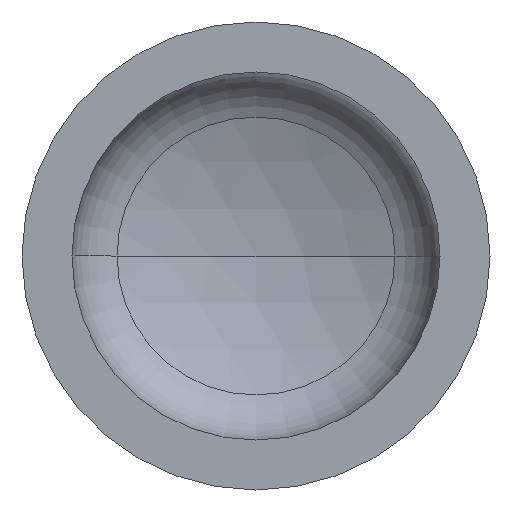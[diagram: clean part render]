
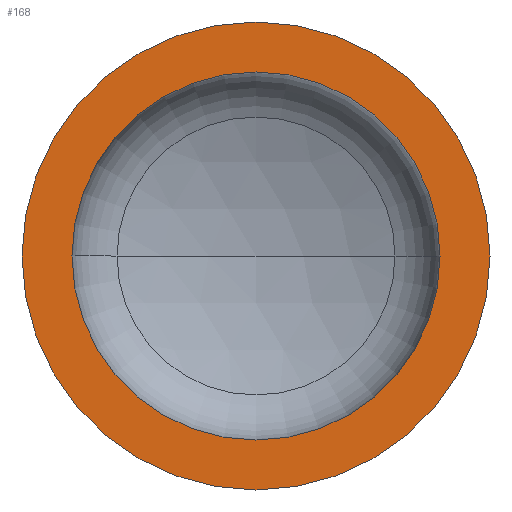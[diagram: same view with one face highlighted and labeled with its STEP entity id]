
A CAD part, front view. The second image highlights one B-rep face of the part: STEP entity #168.
In plain terms, the highlighted planar face has unit normal (0, -1, 0).
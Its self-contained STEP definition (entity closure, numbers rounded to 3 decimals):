
#13 = VERTEX_POINT ( 'NONE', #282 ) ;
#23 = AXIS2_PLACEMENT_3D ( 'NONE', #98, #138, #133 ) ;
#24 = FACE_OUTER_BOUND ( 'NONE', #140, .T. ) ;
#45 = AXIS2_PLACEMENT_3D ( 'NONE', #136, #202, #311 ) ;
#51 = VERTEX_POINT ( 'NONE', #246 ) ;
#54 = ORIENTED_EDGE ( 'NONE', *, *, #338, .T. ) ;
#64 = VERTEX_POINT ( 'NONE', #243 ) ;
#68 = EDGE_LOOP ( 'NONE', ( #394, #130 ) ) ;
#71 = AXIS2_PLACEMENT_3D ( 'NONE', #332, #348, #346 ) ;
#75 = AXIS2_PLACEMENT_3D ( 'NONE', #171, #185, #190 ) ;
#89 = VERTEX_POINT ( 'NONE', #329 ) ;
#93 = EDGE_CURVE ( 'NONE', #89, #13, #318, .T. ) ;
#95 = EDGE_CURVE ( 'NONE', #51, #64, #387, .T. ) ;
#98 = CARTESIAN_POINT ( 'NONE',  ( 0., 0., 0. ) ) ;
#115 = ORIENTED_EDGE ( 'NONE', *, *, #93, .T. ) ;
#125 = CARTESIAN_POINT ( 'NONE',  ( 0., 0., 0. ) ) ;
#130 = ORIENTED_EDGE ( 'NONE', *, *, #410, .F. ) ;
#131 = DIRECTION ( 'NONE',  ( 0., -1., 0. ) ) ;
#133 = DIRECTION ( 'NONE',  ( 1., 0., 0. ) ) ;
#136 = CARTESIAN_POINT ( 'NONE',  ( -300., 0., 0. ) ) ;
#138 = DIRECTION ( 'NONE',  ( 0., -1., 0. ) ) ;
#140 = EDGE_LOOP ( 'NONE', ( #54, #115 ) ) ;
#168 = ADVANCED_FACE ( 'NONE', ( #365, #24 ), #284, .F. ) ;
#171 = CARTESIAN_POINT ( 'NONE',  ( 0., 0., 0. ) ) ;
#185 = DIRECTION ( 'NONE',  ( 0., -1., 0. ) ) ;
#190 = DIRECTION ( 'NONE',  ( 1., 0., 0. ) ) ;
#191 = CIRCLE ( 'NONE', #205, 236. ) ;
#202 = DIRECTION ( 'NONE',  ( 0., 1., 0. ) ) ;
#205 = AXIS2_PLACEMENT_3D ( 'NONE', #125, #131, #362 ) ;
#243 = CARTESIAN_POINT ( 'NONE',  ( -236., 0., 0. ) ) ;
#246 = CARTESIAN_POINT ( 'NONE',  ( 236., 0., 0. ) ) ;
#282 = CARTESIAN_POINT ( 'NONE',  ( 300., 0., 0. ) ) ;
#284 = PLANE ( 'NONE',  #45 ) ;
#311 = DIRECTION ( 'NONE',  ( -1., 0., 0. ) ) ;
#318 = CIRCLE ( 'NONE', #75, 300. ) ;
#329 = CARTESIAN_POINT ( 'NONE',  ( -300., 0., 0. ) ) ;
#332 = CARTESIAN_POINT ( 'NONE',  ( 0., 0., 0. ) ) ;
#338 = EDGE_CURVE ( 'NONE', #13, #89, #395, .T. ) ;
#346 = DIRECTION ( 'NONE',  ( 1., 0., 0. ) ) ;
#348 = DIRECTION ( 'NONE',  ( 0., -1., 0. ) ) ;
#362 = DIRECTION ( 'NONE',  ( 1., 0., 0. ) ) ;
#365 = FACE_BOUND ( 'NONE', #68, .T. ) ;
#387 = CIRCLE ( 'NONE', #71, 236. ) ;
#394 = ORIENTED_EDGE ( 'NONE', *, *, #95, .F. ) ;
#395 = CIRCLE ( 'NONE', #23, 300. ) ;
#410 = EDGE_CURVE ( 'NONE', #64, #51, #191, .T. ) ;
